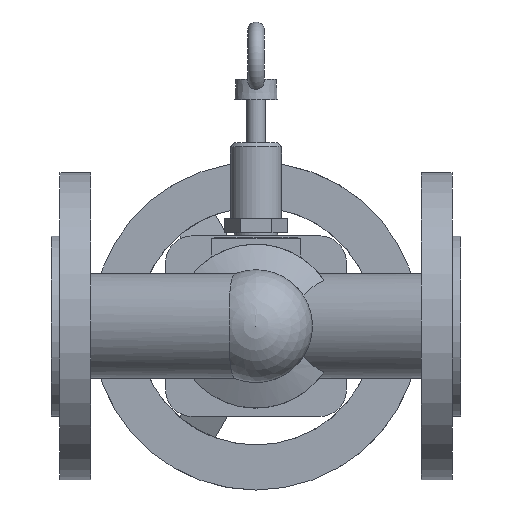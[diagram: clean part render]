
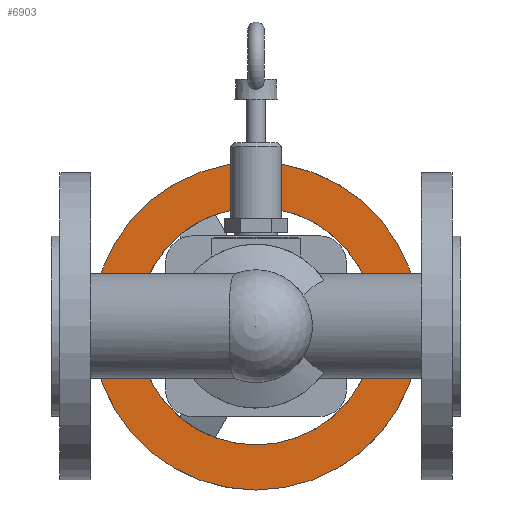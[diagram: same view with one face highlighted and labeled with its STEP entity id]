
A CAD part, front view. The second image highlights one B-rep face of the part: STEP entity #6903.
In plain terms, the highlighted planar face has unit normal (0, -1, 0).
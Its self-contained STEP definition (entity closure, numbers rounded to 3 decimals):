
#1526=FACE_BOUND('',#2276,.T.);
#1633=PLANE('',#7353);
#1895=FACE_OUTER_BOUND('',#2275,.T.);
#2275=EDGE_LOOP('',(#4782));
#2276=EDGE_LOOP('',(#4783));
#2829=CIRCLE('',#7352,58.);
#2830=CIRCLE('',#7354,80.);
#3012=VERTEX_POINT('',#9745);
#3013=VERTEX_POINT('',#9749);
#3701=EDGE_CURVE('',#3012,#3012,#2829,.T.);
#3702=EDGE_CURVE('',#3013,#3013,#2830,.T.);
#4782=ORIENTED_EDGE('',*,*,#3702,.F.);
#4783=ORIENTED_EDGE('',*,*,#3701,.T.);
#6903=ADVANCED_FACE('',(#1895,#1526),#1633,.T.);
#7352=AXIS2_PLACEMENT_3D('',#9747,#8011,#8012);
#7353=AXIS2_PLACEMENT_3D('',#9748,#8013,#8014);
#7354=AXIS2_PLACEMENT_3D('',#9750,#8015,#8016);
#8011=DIRECTION('center_axis',(0.,1.,0.));
#8012=DIRECTION('ref_axis',(-1.,0.,0.));
#8013=DIRECTION('center_axis',(0.,-1.,0.));
#8014=DIRECTION('ref_axis',(0.,0.,-1.));
#8015=DIRECTION('center_axis',(0.,1.,0.));
#8016=DIRECTION('ref_axis',(-1.,0.,0.));
#9745=CARTESIAN_POINT('',(64.68,132.378,-34.25));
#9747=CARTESIAN_POINT('Origin',(6.68,132.378,-34.25));
#9748=CARTESIAN_POINT('Origin',(-62.32,132.378,-34.25));
#9749=CARTESIAN_POINT('',(86.68,132.378,-34.25));
#9750=CARTESIAN_POINT('Origin',(6.68,132.378,-34.25));
